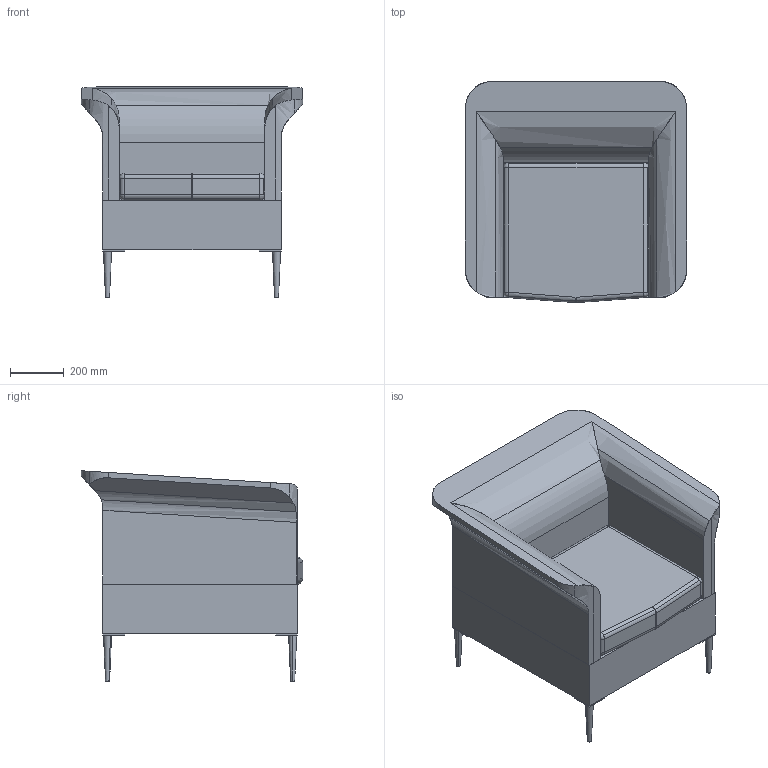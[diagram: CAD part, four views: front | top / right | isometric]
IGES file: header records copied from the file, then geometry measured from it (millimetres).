
Start section: IMSI TurboCAD v14.0
Global section: author: NULL; organization: NULL; date: 20121019.125008; units: millimetre
Bounding box: 820 x 819.95 x 780 mm (x, y, z)
Surface area: 4366773.5 mm2 (no closed solid volume)
Topology: 0 solids, 0 shells, 129 faces, 596 edges, 586 vertices
Faces by surface type: revolution 68, extrusion 61
